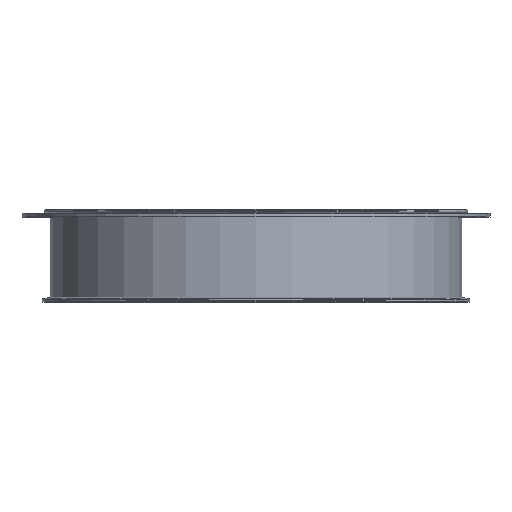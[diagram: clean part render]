
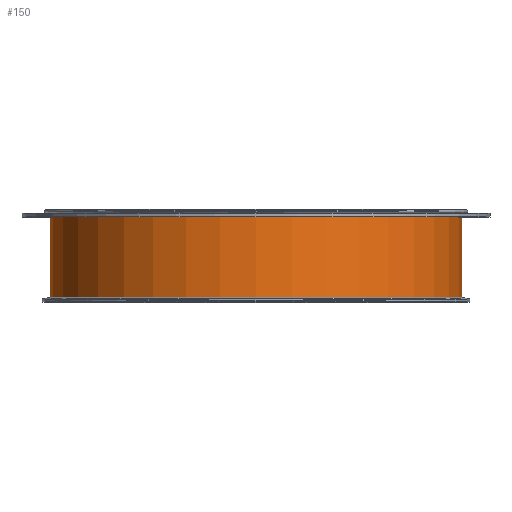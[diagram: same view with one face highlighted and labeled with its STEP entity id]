
A CAD part, top view. The second image highlights one B-rep face of the part: STEP entity #150.
In plain terms, the highlighted cylindrical face has radius 226 mm (diameter 452 mm), a full revolution.
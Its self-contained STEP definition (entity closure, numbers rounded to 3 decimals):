
#122=CYLINDRICAL_SURFACE('',#590,226.);
#150=ADVANCED_FACE('',(#233,#234),#122,.T.);
#233=FACE_BOUND('',#313,.T.);
#234=FACE_BOUND('',#314,.T.);
#313=EDGE_LOOP('',(#393));
#314=EDGE_LOOP('',(#394));
#393=ORIENTED_EDGE('',*,*,#474,.F.);
#394=ORIENTED_EDGE('',*,*,#482,.F.);
#434=VERTEX_POINT('',#824);
#442=VERTEX_POINT('',#845);
#474=EDGE_CURVE('',#434,#434,#514,.T.);
#482=EDGE_CURVE('',#442,#442,#522,.T.);
#514=CIRCLE('',#575,226.);
#522=CIRCLE('',#588,226.);
#575=AXIS2_PLACEMENT_3D('',#823,#698,#699);
#588=AXIS2_PLACEMENT_3D('',#844,#724,#725);
#590=AXIS2_PLACEMENT_3D('',#847,#728,#729);
#698=DIRECTION('',(0.,-1.,0.));
#699=DIRECTION('',(-1.,0.,0.));
#724=DIRECTION('',(0.,1.,0.));
#725=DIRECTION('',(1.,0.,0.));
#728=DIRECTION('',(0.,1.,0.));
#729=DIRECTION('',(1.,0.,0.));
#823=CARTESIAN_POINT('',(0.,5.17,0.));
#824=CARTESIAN_POINT('',(-226.,5.17,0.));
#844=CARTESIAN_POINT('',(0.,99.,0.));
#845=CARTESIAN_POINT('',(226.,99.,0.));
#847=CARTESIAN_POINT('',(0.,-192.076,0.));
